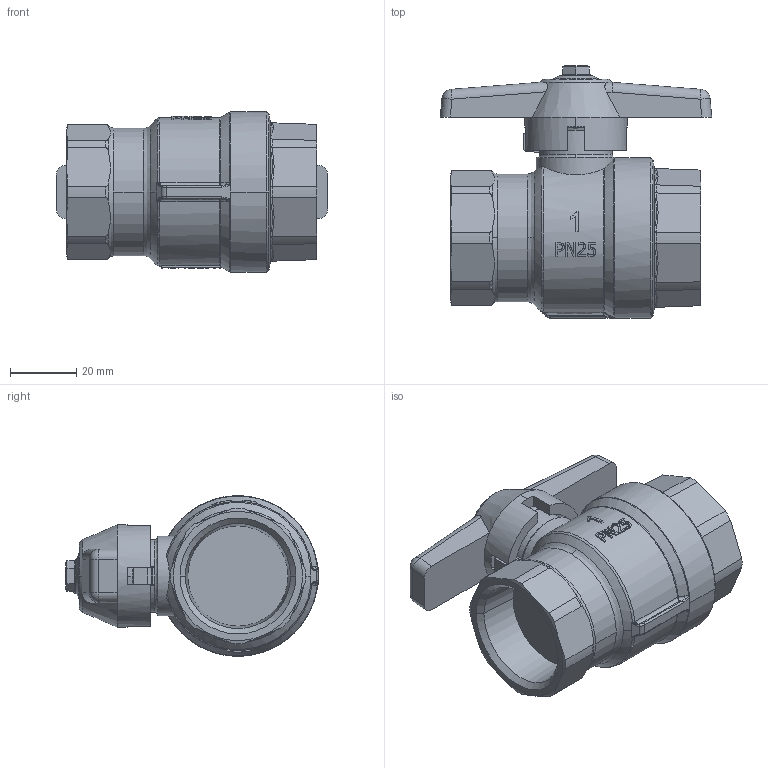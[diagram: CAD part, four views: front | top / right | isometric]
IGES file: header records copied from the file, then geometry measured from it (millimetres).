
Global section: file name: No Iges File Name specified; native system: AutoDesk Inventor R12.0; preprocessor: AutoDesk Inventor Iges Exporter R12.0; date: 20110214.165326; units: millimetre
Bounding box: 82 x 76.25 x 48.5 mm (x, y, z)
Volume: 112972.9 mm3; surface area: 22206.1 mm2
Topology: 2 solids, 2 shells, 451 faces, 1189 edges, 757 vertices
Faces by surface type: plane 173, bspline 132, cylinder 58, cone 42, revolution 24, torus 18, sphere 4
Full cylindrical faces by diameter (mm): 23.96 x1
